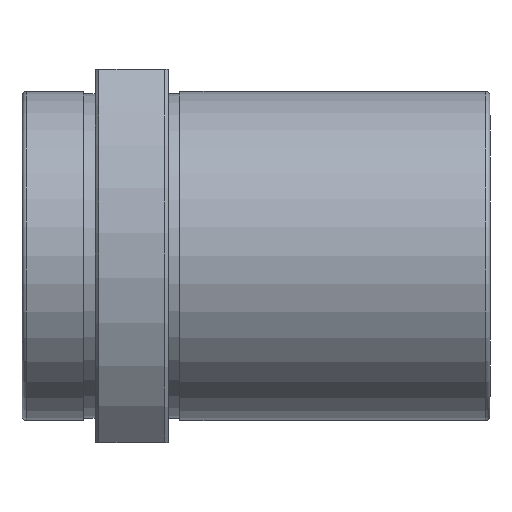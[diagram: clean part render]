
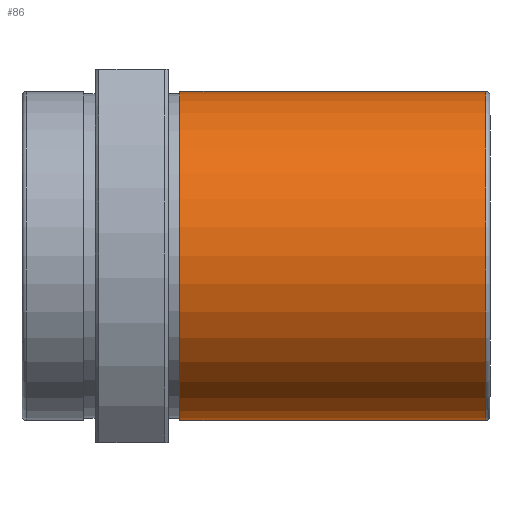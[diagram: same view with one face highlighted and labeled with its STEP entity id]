
A CAD part, top view. The second image highlights one B-rep face of the part: STEP entity #86.
In plain terms, the highlighted cylindrical face has radius 22.5 mm (diameter 45 mm), a full revolution.
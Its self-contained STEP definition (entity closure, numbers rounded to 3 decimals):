
#86=ADVANCED_FACE('',(#143,#144),#145,.T.);
#143=FACE_OUTER_BOUND('',#242,.T.);
#144=FACE_OUTER_BOUND('',#243,.T.);
#145=CYLINDRICAL_SURFACE('',#244,22.5);
#242=EDGE_LOOP('',(#394));
#243=EDGE_LOOP('',(#395));
#244=AXIS2_PLACEMENT_3D('',#396,#397,#398);
#394=ORIENTED_EDGE('',*,*,#545,.T.);
#395=ORIENTED_EDGE('',*,*,#546,.T.);
#396=CARTESIAN_POINT('',(44.0,0.0,0.));
#397=DIRECTION('',(1.0,-0.0,0.));
#398=DIRECTION('',(0.0,-1.0,0.0));
#545=EDGE_CURVE('',#624,#624,#625,.T.);
#546=EDGE_CURVE('',#626,#626,#627,.F.);
#624=VERTEX_POINT('',#752);
#625=CIRCLE('',#753,22.5);
#626=VERTEX_POINT('',#754);
#627=CIRCLE('',#755,22.5);
#752=CARTESIAN_POINT('',(1.6,0.0,-22.5));
#753=AXIS2_PLACEMENT_3D('',#851,#852,#853);
#754=CARTESIAN_POINT('',(43.4,0.,-22.5));
#755=AXIS2_PLACEMENT_3D('',#854,#855,#856);
#851=CARTESIAN_POINT('',(1.6,0.0,0.));
#852=DIRECTION('',(1.0,0.0,0.));
#853=DIRECTION('',(0.,0.0,-1.0));
#854=CARTESIAN_POINT('',(43.4,0.0,0.));
#855=DIRECTION('',(1.0,0.0,0.));
#856=DIRECTION('',(0.,0.0,-1.0));
